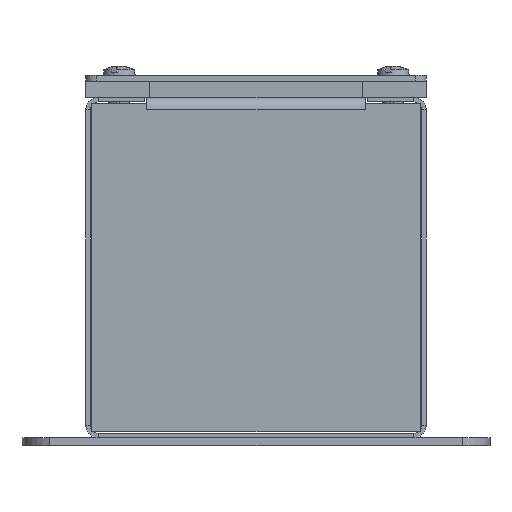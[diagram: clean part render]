
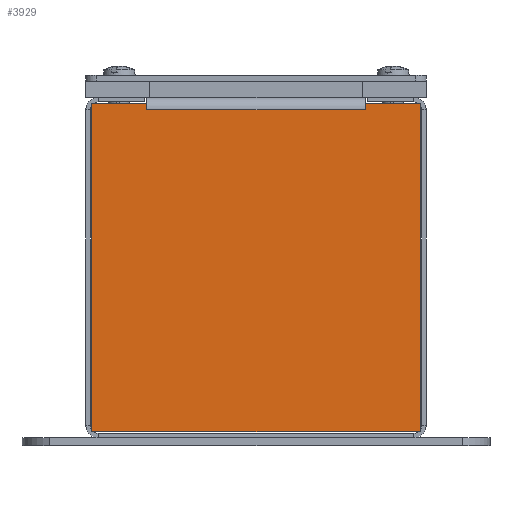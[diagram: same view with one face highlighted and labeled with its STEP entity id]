
A CAD part, left-side view. The second image highlights one B-rep face of the part: STEP entity #3929.
In plain terms, the highlighted planar face has unit normal (-1, 0, 0) as drawn and (0, 1, 0) by its records, which use the part's own axes.
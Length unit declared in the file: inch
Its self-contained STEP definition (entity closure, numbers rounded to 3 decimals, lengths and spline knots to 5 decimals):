
#40 = EDGE_CURVE ( 'NONE', #6642, #5731, #6423, .T. ) ;
#92 = VERTEX_POINT ( 'NONE', #7765 ) ;
#217 = CARTESIAN_POINT ( 'NONE',  ( -0.069, 0., 1.93186 ) ) ;
#255 = VECTOR ( 'NONE', #7319, 39.37008 ) ;
#263 = ORIENTED_EDGE ( 'NONE', *, *, #4032, .T. ) ;
#322 = ORIENTED_EDGE ( 'NONE', *, *, #5904, .T. ) ;
#372 = VERTEX_POINT ( 'NONE', #217 ) ;
#441 = CARTESIAN_POINT ( 'NONE',  ( -3.93186, 0., -1.93186 ) ) ;
#710 = ORIENTED_EDGE ( 'NONE', *, *, #4220, .F. ) ;
#860 = LINE ( 'NONE', #441, #2275 ) ;
#1196 = CARTESIAN_POINT ( 'NONE',  ( -0.069, 0., 1.282 ) ) ;
#1287 = ORIENTED_EDGE ( 'NONE', *, *, #6478, .T. ) ;
#1363 = DIRECTION ( 'NONE',  ( 0., 0., 1. ) ) ;
#1364 = EDGE_CURVE ( 'NONE', #1869, #372, #5470, .T. ) ;
#1448 = LINE ( 'NONE', #3532, #7622 ) ;
#1699 = DIRECTION ( 'NONE',  ( 0., 0., 1. ) ) ;
#1748 = DIRECTION ( 'NONE',  ( 0., 0., -1. ) ) ;
#1766 = DIRECTION ( 'NONE',  ( 1., 0., 0. ) ) ;
#1840 = VECTOR ( 'NONE', #1766, 39.37008 ) ;
#1862 = LINE ( 'NONE', #6733, #255 ) ;
#1869 = VERTEX_POINT ( 'NONE', #1196 ) ;
#1905 = VECTOR ( 'NONE', #6835, 39.37008 ) ;
#1974 = EDGE_CURVE ( 'NONE', #5620, #5450, #860, .T. ) ;
#2077 = CARTESIAN_POINT ( 'NONE',  ( -3.93186, 0., 1.93186 ) ) ;
#2275 = VECTOR ( 'NONE', #7616, 39.37008 ) ;
#2507 = AXIS2_PLACEMENT_3D ( 'NONE', #5875, #5300, #1699 ) ;
#2528 = CARTESIAN_POINT ( 'NONE',  ( -3.93186, 0., 1.93186 ) ) ;
#2620 = CARTESIAN_POINT ( 'NONE',  ( -0.069, 0., -1.93186 ) ) ;
#2907 = ORIENTED_EDGE ( 'NONE', *, *, #1364, .F. ) ;
#2957 = CARTESIAN_POINT ( 'NONE',  ( -0.144, 0., 1.282 ) ) ;
#3131 = CARTESIAN_POINT ( 'NONE',  ( -0.144, 0., 1.282 ) ) ;
#3247 = VECTOR ( 'NONE', #1748, 39.37008 ) ;
#3403 = CARTESIAN_POINT ( 'NONE',  ( -0.144, 0., -1.282 ) ) ;
#3491 = LINE ( 'NONE', #7169, #1905 ) ;
#3532 = CARTESIAN_POINT ( 'NONE',  ( -0.069, 0., 1.93186 ) ) ;
#3705 = LINE ( 'NONE', #2077, #4915 ) ;
#3875 = VECTOR ( 'NONE', #1363, 39.37008 ) ;
#3929 = ADVANCED_FACE ( 'NONE', ( #4055 ), #4090, .T. ) ;
#3939 = ORIENTED_EDGE ( 'NONE', *, *, #40, .T. ) ;
#4032 = EDGE_CURVE ( 'NONE', #1869, #6642, #3491, .T. ) ;
#4055 = FACE_OUTER_BOUND ( 'NONE', #5704, .T. ) ;
#4090 = PLANE ( 'NONE',  #2507 ) ;
#4220 = EDGE_CURVE ( 'NONE', #5352, #5620, #1862, .T. ) ;
#4748 = CARTESIAN_POINT ( 'NONE',  ( -3.93186, 0., -1.282 ) ) ;
#4770 = DIRECTION ( 'NONE',  ( 1., 0., 0. ) ) ;
#4915 = VECTOR ( 'NONE', #4770, 39.37008 ) ;
#5300 = DIRECTION ( 'NONE',  ( 0., 1., 0. ) ) ;
#5352 = VERTEX_POINT ( 'NONE', #2528 ) ;
#5450 = VERTEX_POINT ( 'NONE', #2620 ) ;
#5470 = LINE ( 'NONE', #7322, #3875 ) ;
#5620 = VERTEX_POINT ( 'NONE', #5715 ) ;
#5704 = EDGE_LOOP ( 'NONE', ( #322, #7733, #6008, #710, #1287, #2907, #263, #3939 ) ) ;
#5715 = CARTESIAN_POINT ( 'NONE',  ( -3.93186, 0., -1.93186 ) ) ;
#5731 = VERTEX_POINT ( 'NONE', #3403 ) ;
#5875 = CARTESIAN_POINT ( 'NONE',  ( -3.93186, 0., 1.93186 ) ) ;
#5904 = EDGE_CURVE ( 'NONE', #5731, #92, #6616, .T. ) ;
#5935 = DIRECTION ( 'NONE',  ( 0., 0., 1. ) ) ;
#6008 = ORIENTED_EDGE ( 'NONE', *, *, #1974, .F. ) ;
#6423 = LINE ( 'NONE', #2957, #3247 ) ;
#6478 = EDGE_CURVE ( 'NONE', #5352, #372, #3705, .T. ) ;
#6616 = LINE ( 'NONE', #4748, #1840 ) ;
#6642 = VERTEX_POINT ( 'NONE', #3131 ) ;
#6733 = CARTESIAN_POINT ( 'NONE',  ( -3.93186, 0., 1.93186 ) ) ;
#6835 = DIRECTION ( 'NONE',  ( -1., 0., 0. ) ) ;
#7169 = CARTESIAN_POINT ( 'NONE',  ( -3.93186, 0., 1.282 ) ) ;
#7319 = DIRECTION ( 'NONE',  ( 0., 0., -1. ) ) ;
#7322 = CARTESIAN_POINT ( 'NONE',  ( -0.069, 0., 1.93186 ) ) ;
#7616 = DIRECTION ( 'NONE',  ( 1., 0., 0. ) ) ;
#7622 = VECTOR ( 'NONE', #5935, 39.37008 ) ;
#7733 = ORIENTED_EDGE ( 'NONE', *, *, #7749, .F. ) ;
#7749 = EDGE_CURVE ( 'NONE', #5450, #92, #1448, .T. ) ;
#7765 = CARTESIAN_POINT ( 'NONE',  ( -0.069, 0., -1.282 ) ) ;
